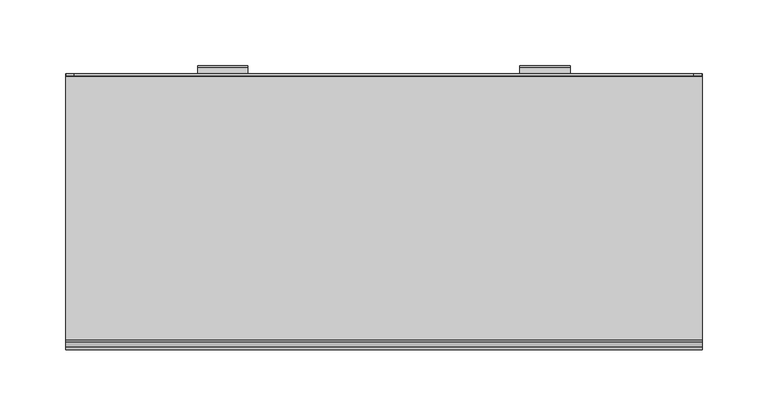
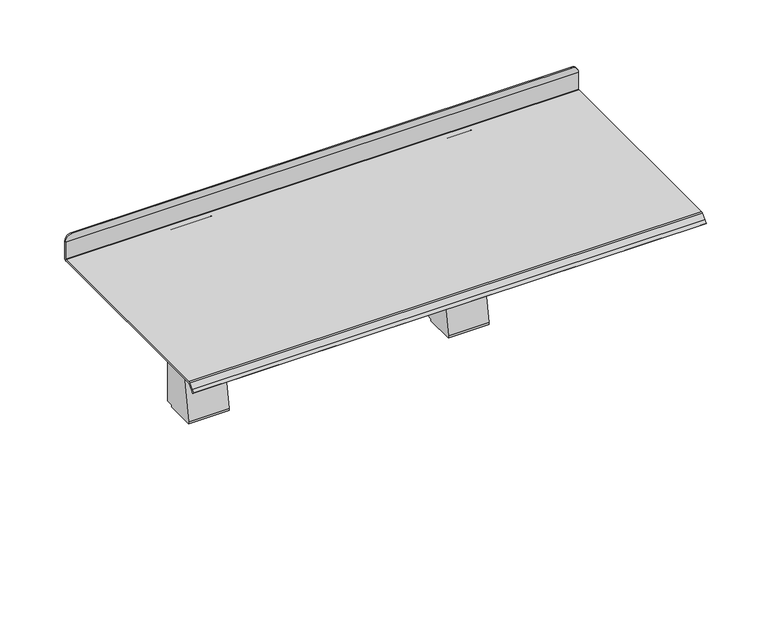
"""IFC4 building model written with IfcOpenShell, lengths in millimetres: furniture geometry, Steelcase Turnstone - Bivi - Accessories - Top Shelf : 8 1/2D x 19W x 8H."""

from ifc_helpers import new_model, si_unit, point, frame, frame_2d, origin, place, context, project, spatial, polyline, circle_curve, trimmed, segment, composite_curve, outline, extrude, source, transform, mapped, element, save


def furniture_e66c60fa(model_context):
    return source(origin(), model_context, "Body", "SweptSolid", [
        extrude(outline(composite_curve([segment(polyline([(-0.7728392, 798.8045849), (-150.9546308, 798.8045849), (-150.9546308, 803.3511824), (-0.9201915, 803.3511824)]), True, "CONTINUOUS"), segment(trimmed(circle_curve(frame_2d((-0.9201915, 797.8843898)), 5.4667926), [point((-0.9201915, 803.3511824))], [point((4.546601, 797.8843898))], False, "CARTESIAN"), True, "CONTINUOUS"), segment(polyline([(4.546601, 797.8843898), (4.546601, 705.4897865), (5.765799, 705.4897865), (5.765799, 624.3367458), (-0.6095999, 624.3367458), (-0.6095999, 622.3047478), (-28.4199039, 622.3047478), (-28.4199039, 624.3367458), (-14.5801367, 702.8259947)]), True, "CONTINUOUS"), segment(trimmed(circle_curve(frame_2d((-11.4055534, 702.2662302)), 3.2235563), [point((-14.5801367, 702.8259947))], [point((-11.4055534, 705.4897865))], False, "CARTESIAN"), True, "CONTINUOUS"), segment(polyline([(-11.4055534, 705.4897865), (2e-07, 705.4897865), (2e-07, 798.0317455)]), True, "CONTINUOUS"), segment(trimmed(circle_curve(frame_2d((-0.7728392, 798.0317455)), 0.7728394), [point((2e-07, 798.0317455))], [point((-0.7728392, 798.8045849))], True, "CARTESIAN"), True, "CONTINUOUS")], self_intersect=False)), frame((344.4672869, 0.0, 0.0), z_axis=(1.0, 0.0, 0.0), x_axis=(0.0, 1.0, 0.0)), (0.0, 0.0, 1.0), 38.1),
        extrude(outline(composite_curve([segment(polyline([(-0.7728392, 798.8045849), (-150.9546308, 798.8045849), (-150.9546308, 803.3511824), (-0.9201915, 803.3511824)]), True, "CONTINUOUS"), segment(trimmed(circle_curve(frame_2d((-0.9201915, 797.8843898)), 5.4667926), [point((-0.9201915, 803.3511824))], [point((4.546601, 797.8843898))], False, "CARTESIAN"), True, "CONTINUOUS"), segment(polyline([(4.546601, 797.8843898), (4.546601, 705.4897865), (5.765799, 705.4897865), (5.765799, 624.3367458), (-0.6095999, 624.3367458), (-0.6095999, 622.3047478), (-28.4199039, 622.3047478), (-28.4199039, 624.3367458), (-14.5801367, 702.8259947)]), True, "CONTINUOUS"), segment(trimmed(circle_curve(frame_2d((-11.4055534, 702.2662302)), 3.2235563), [point((-14.5801367, 702.8259947))], [point((-11.4055534, 705.4897865))], False, "CARTESIAN"), True, "CONTINUOUS"), segment(polyline([(-11.4055534, 705.4897865), (2e-07, 705.4897865), (2e-07, 798.0317455)]), True, "CONTINUOUS"), segment(trimmed(circle_curve(frame_2d((-0.7728392, 798.0317455)), 0.7728394), [point((2e-07, 798.0317455))], [point((-0.7728392, 798.8045849))], True, "CARTESIAN"), True, "CONTINUOUS")], self_intersect=False)), frame((100.0252, 0.0, 0.0), z_axis=(1.0, 0.0, 0.0), x_axis=(0.0, 1.0, 0.0)), (0.0, 0.0, 1.0), 38.1),
        extrude(outline(composite_curve([segment(polyline([(822.2298992, 0.0075131), (822.2298992, 482.6)]), True, "CONTINUOUS"), segment(trimmed(circle_curve(frame_2d((822.2298992, 476.2575092)), 6.3424908), [point((822.2298992, 482.6))], [point((828.57239, 476.2575092))], False, "CARTESIAN"), True, "CONTINUOUS"), segment(polyline([(828.57239, 476.2575092), (828.57239, 6.3500039)]), True, "CONTINUOUS"), segment(trimmed(circle_curve(frame_2d((822.2298992, 6.3500039)), 6.3424908), [point((828.57239, 6.3500039))], [point((822.2298992, 0.0075131))], False, "CARTESIAN"), True, "CONTINUOUS")], self_intersect=False)), frame((0.0, -1.524, 0.0), z_axis=(0.0, 1.0, 0.0), x_axis=(0.0, 0.0, 1.0)), (0.0, 0.0, 1.0), 1.524),
        extrude(outline(composite_curve([segment(polyline([(-1.524, 822.2298992), (0.0, 822.2298992), (0.0, 805.2075153)]), True, "CONTINUOUS"), segment(trimmed(circle_curve(frame_2d((-1.8563153, 805.2075153)), 1.8563153), [point((0.0, 805.2075153))], [point((-1.8563153, 803.3512))], False, "CARTESIAN"), True, "CONTINUOUS"), segment(polyline([(-1.8563153, 803.3512), (-201.7014842, 803.3512)]), True, "CONTINUOUS"), segment(trimmed(circle_curve(frame_2d((-201.7014842, 802.287996)), 1.063204), [point((-201.7014842, 803.3512))], [point((-202.4532879, 803.0397898))], True, "CARTESIAN"), True, "CONTINUOUS"), segment(polyline([(-202.4532879, 803.0397898), (-206.3718905, 799.1211353), (-208.616957, 796.8760689), (-209.6945802, 797.9537647), (-207.4495137, 800.1988312), (-203.361271, 804.2870559)]), True, "CONTINUOUS"), segment(trimmed(circle_curve(frame_2d((-201.9413194, 802.867098)), 2.0081192), [point((-203.361271, 804.2870559))], [point((-201.9413194, 804.8752172))], False, "CARTESIAN"), True, "CONTINUOUS"), segment(polyline([(-201.9413194, 804.8752172), (-2.0326033, 804.8752172)]), True, "CONTINUOUS"), segment(trimmed(circle_curve(frame_2d((-2.0326033, 805.3838205)), 0.5086033), [point((-2.0326033, 804.8752172))], [point((-1.524, 805.3838205))], True, "CARTESIAN"), True, "CONTINUOUS"), segment(polyline([(-1.524, 805.3838205), (-1.524, 822.2298992)]), True, "CONTINUOUS")], self_intersect=False)), frame((0.0, 0.0, 0.0), z_axis=(1.0, 0.0, 0.0), x_axis=(0.0, 1.0, 0.0)), (0.0, 0.0, 1.0), 482.6),
    ])


if __name__ == "__main__":
    model = new_model("IFC4")
    model_context = context("Model", 3, world=origin())
    ifc_project = project(units=[si_unit("LENGTHUNIT", "METRE", prefix="MILLI")], contexts=[model_context])
    site = spatial("IfcSite", under=ifc_project)
    building = spatial("IfcBuilding", under=site)
    placement = place(None, origin())
    furniture_shape = furniture_e66c60fa(model_context)
    element("IfcFurniture", 1, ObjectType="Steelcase Turnstone - Bivi - Accessories - Top Shelf : 8 1/2D x 19W x 8H", at=placement, inside=building, context=model_context, shape_type="MappedRepresentation", body=[
        mapped(furniture_shape, transform((0.0, 0.0, 0.0), x_axis=(1.0, 0.0, 0.0), y_axis=(0.0, 1.0, 0.0), z_axis=(0.0, 0.0, 1.0))),
    ])
    save(model, "model.ifc")
